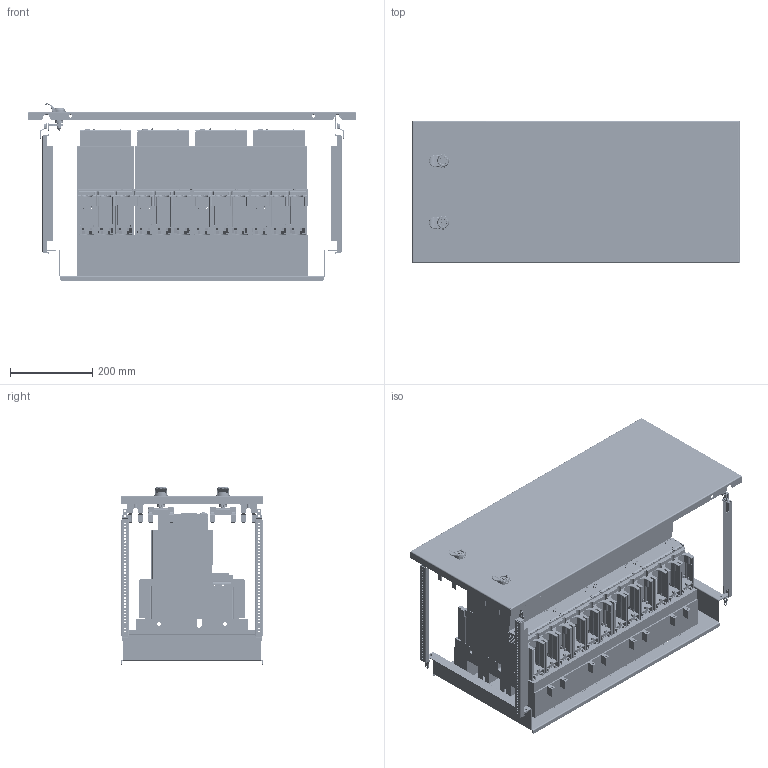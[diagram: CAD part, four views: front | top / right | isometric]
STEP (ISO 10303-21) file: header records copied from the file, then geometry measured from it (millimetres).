
FILE_DESCRIPTION(('CAx-IF Rec.Pracs.---Model Styling and Organization---1.2---2011-12-15','CAx-IF Rec.Pracs.---Geometric and Assembly Validation Properties---4.1---2014-06-16','CAx-IF Rec.Pracs.---PMI Polyline Presentation---2.0---2013-05-24'),'2;1');
FILE_NAME('R5PKEB7V81416.stp','2021-07-29T02:46:43+03:00',(''),(''),'STEP Interface 4.4 by CT CoreTechnologie','3D_Evolution4.4 by CT CoreTechnologie','');
FILE_SCHEMA(('AUTOMOTIVE_DESIGN { 1 0 10303 214 1 1 1 1 }'));
Length unit declared in the file: millimetre
Products named in the file (1): R5PKEB7V81416
Bounding box: 794 x 345 x 430.24 mm (x, y, z)
Surface area: 5883116.3 mm2 (no closed solid volume)
Topology: 0 solids, 229 shells, 26096 faces, 78441 edges, 52180 vertices
Faces by surface type: plane 17311, cylinder 7146, bspline 1639
Entity records: 907559 total; most frequent: CARTESIAN_POINT 196207, ORIENTED_EDGE 154230, DIRECTION 141713, EDGE_CURVE 78159, VECTOR 60753, LINE 60753, VERTEX_POINT 52252, AXIS2_PLACEMENT_3D 40480
